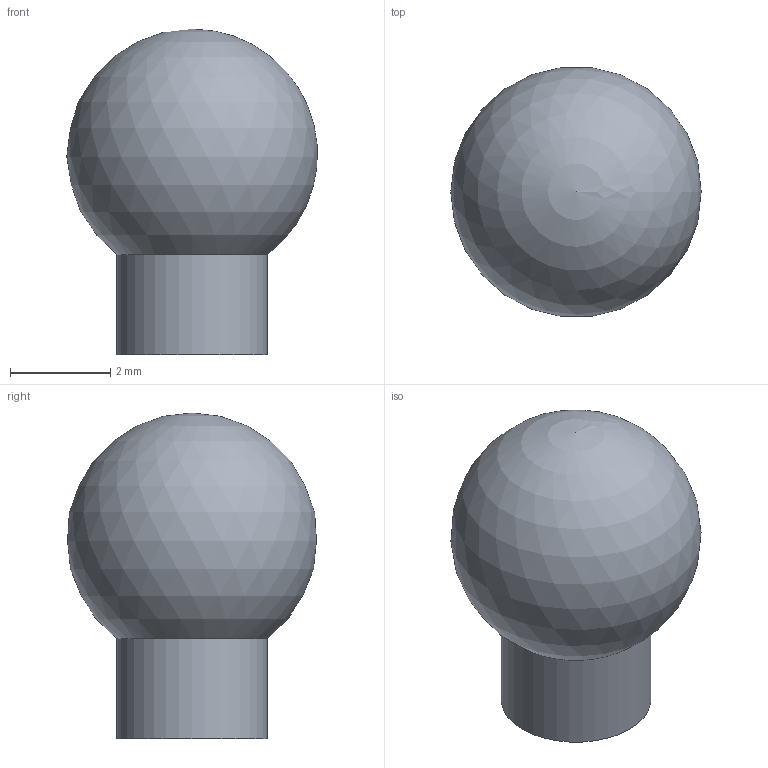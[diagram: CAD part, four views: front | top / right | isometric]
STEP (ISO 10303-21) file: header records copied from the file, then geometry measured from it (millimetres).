
FILE_DESCRIPTION(('Open CASCADE Model'),'2;1');
FILE_NAME('Open CASCADE Shape Model','2026-10-15T19:48:38',('Author'),( 'Open CASCADE'),'Open CASCADE STEP processor 7.9','Open CASCADE 7.9' ,'Unknown');
FILE_SCHEMA(('AUTOMOTIVE_DESIGN { 1 0 10303 214 1 1 1 1 }'));
Length unit declared in the file: millimetre
Products named in the file (1): Open CASCADE STEP translator 7.9 21
Bounding box: 4.99 x 4.96 x 6.5 mm (x, y, z)
Volume: 77.8 mm3; surface area: 96.6 mm2
Topology: 1 solids, 1 shells, 3 faces, 6 edges, 4 vertices
Faces by surface type: cylinder 1, plane 1, sphere 1
Full cylindrical faces by diameter (mm): 3 x1
Entity records: 154 total; most frequent: DIRECTION 27, CARTESIAN_POINT 23, ORIENTED_EDGE 10, PCURVE 10, DEFINITIONAL_REPRESENTATION 10, LINE 10, VECTOR 10, AXIS2_PLACEMENT_3D 8
